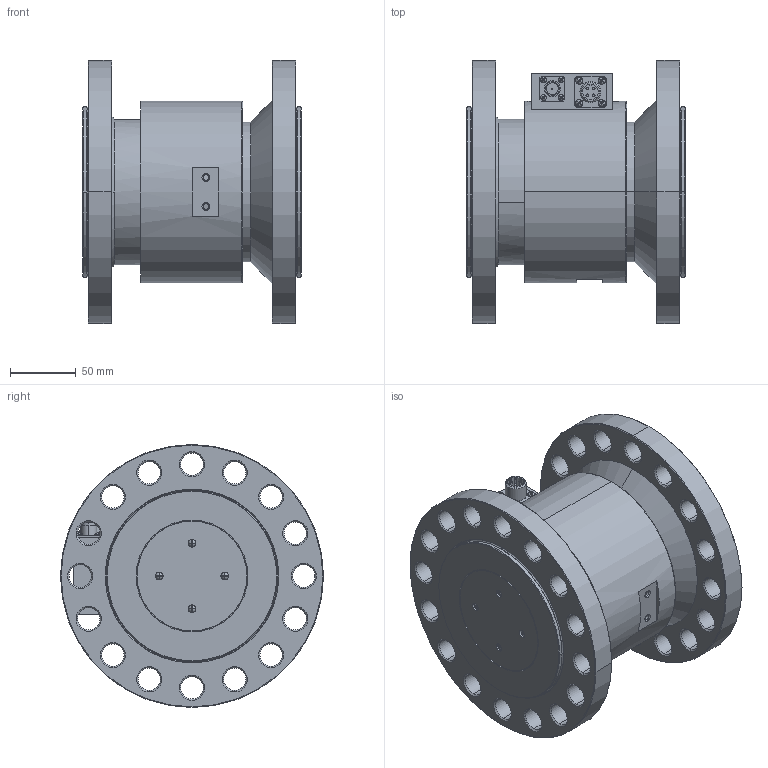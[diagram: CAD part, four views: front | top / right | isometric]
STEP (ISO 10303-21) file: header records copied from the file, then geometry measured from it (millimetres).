
FILE_DESCRIPTION (( 'STEP AP214' ), '1' );
FILE_NAME ('M20C-10K.STEP', '2021-02-12T10:08:28', ( '砐錪賧瘔蠈錪 Windows' ), ( '' ), 'SwSTEP 2.0', 'SolidWorks 2019', '' );
FILE_SCHEMA (( 'AUTOMOTIVE_DESIGN' ));
Length unit declared in the file: millimetre
Products named in the file (1): M20C-10K
Bounding box: 166 x 200 x 200 mm (x, y, z)
Volume: 2676141.9 mm3; surface area: 247356.9 mm2
Topology: 1 solids, 24 shells, 933 faces, 2182 edges, 1357 vertices
Faces by surface type: cylinder 370, plane 255, cone 250, sphere 52, torus 6
Entity records: 28388 total; most frequent: CARTESIAN_POINT 5795, DIRECTION 5016, ORIENTED_EDGE 4352, EDGE_CURVE 2176, AXIS2_PLACEMENT_3D 2116, VERTEX_POINT 1357, CIRCLE 1182, EDGE_LOOP 1127
